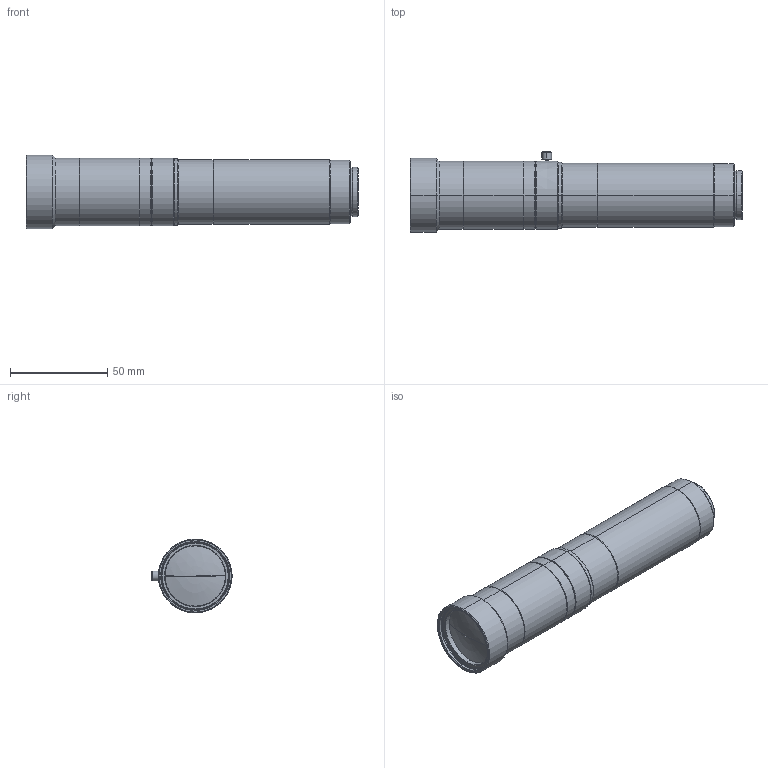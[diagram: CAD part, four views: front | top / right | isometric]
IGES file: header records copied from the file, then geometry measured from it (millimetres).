
Start section: SolidWorks IGES file using analytic representation for surfaces
Bounding box: 170.98 x 41.3 x 38 mm (x, y, z)
Surface area: 30036.8 mm2 (no closed solid volume)
Topology: 0 solids, 0 shells, 145 faces, 2394 edges, 2391 vertices
Faces by surface type: revolution 124, bspline 21
